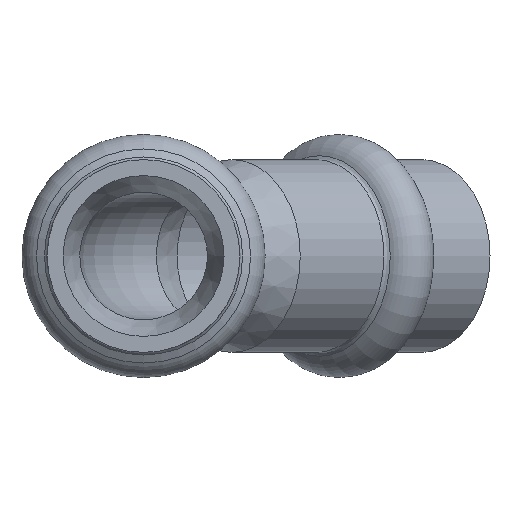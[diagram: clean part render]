
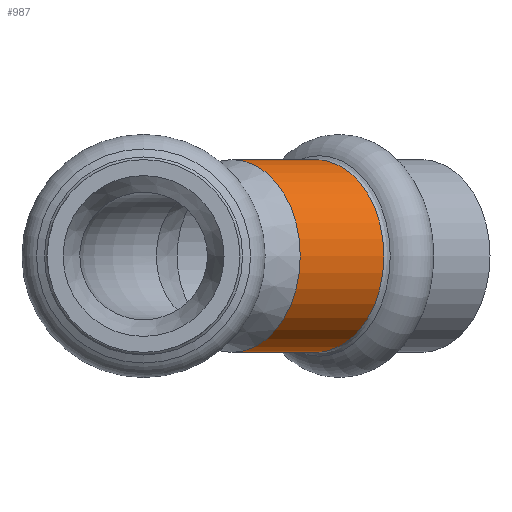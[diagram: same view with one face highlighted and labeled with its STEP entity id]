
A CAD part, left-side view. The second image highlights one B-rep face of the part: STEP entity #987.
In plain terms, the highlighted cylindrical face has radius 9.075 mm (diameter 18.15 mm), a full revolution.
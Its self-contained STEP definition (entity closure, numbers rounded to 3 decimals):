
#945=CARTESIAN_POINT('',(30.078,-9.788,0.));
#946=VERTEX_POINT('',#945);
#947=CARTESIAN_POINT('',(23.661,-16.205,0.0));
#948=DIRECTION('',(0.707,-0.707,0.0));
#949=DIRECTION('',(-0.707,-0.707,0.));
#950=AXIS2_PLACEMENT_3D('',#947,#948,#949);
#951=CIRCLE('',#950,9.075);
#952=EDGE_CURVE('',#946,#946,#951,.T.);
#968=CARTESIAN_POINT('',(19.868,-12.412,0.0));
#969=DIRECTION('',(0.707,-0.707,0.0));
#970=DIRECTION('',(0.707,0.707,0.0));
#971=AXIS2_PLACEMENT_3D('',#968,#969,#970);
#972=CYLINDRICAL_SURFACE('',#971,9.075);
#973=CARTESIAN_POINT('',(22.205,-1.915,0.0));
#974=VERTEX_POINT('',#973);
#975=CARTESIAN_POINT('',(15.788,-8.332,0.0));
#976=DIRECTION('',(0.707,-0.707,0.0));
#977=DIRECTION('',(0.707,0.707,0.0));
#978=AXIS2_PLACEMENT_3D('',#975,#976,#977);
#979=CIRCLE('',#978,9.075);
#980=EDGE_CURVE('',#974,#974,#979,.T.);
#981=ORIENTED_EDGE('',*,*,#980,.T.);
#982=EDGE_LOOP('',(#981));
#983=FACE_OUTER_BOUND('',#982,.T.);
#984=ORIENTED_EDGE('',*,*,#952,.F.);
#985=EDGE_LOOP('',(#984));
#986=FACE_BOUND('',#985,.T.);
#987=ADVANCED_FACE('',(#983,#986),#972,.T.);
